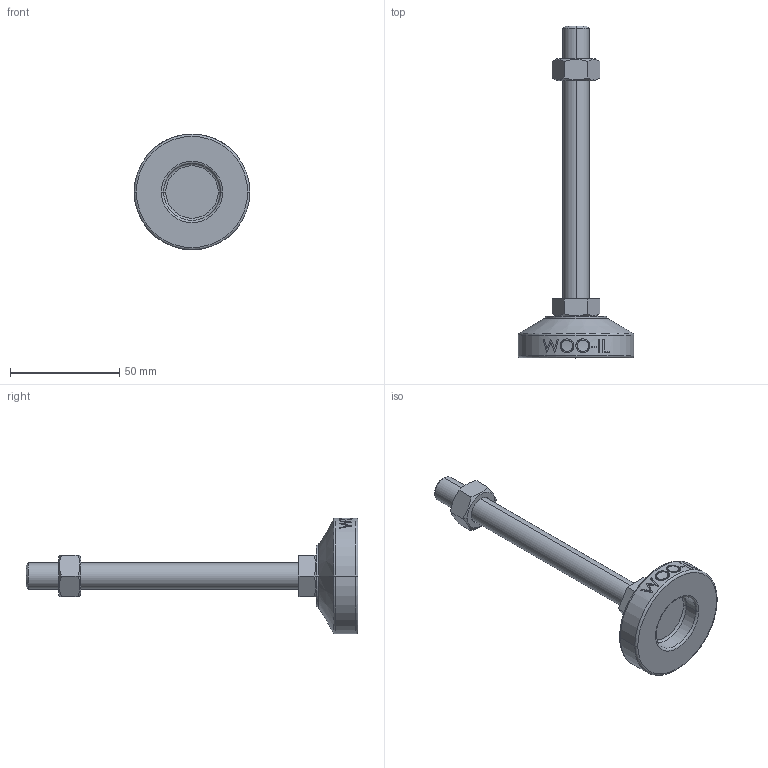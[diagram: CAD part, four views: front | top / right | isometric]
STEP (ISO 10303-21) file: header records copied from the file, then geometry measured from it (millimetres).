
FILE_DESCRIPTION (( 'STEP AP214' ), '1' );
FILE_NAME ('MFZ53-M12-125.step', '2021-01-15T07:03:40', ( '' ), ( '' ), 'SwSTEP 2.0', 'SolidWorks 2019', '' );
FILE_SCHEMA (( 'AUTOMOTIVE_DESIGN' ));
Length unit declared in the file: millimetre
Products named in the file (2): MFZ53-M12-125
Bounding box: 53 x 152 x 53 mm (x, y, z)
Volume: 48631.1 mm3; surface area: 14261.7 mm2
Topology: 3 solids, 3 shells, 106 faces, 243 edges, 154 vertices
Faces by surface type: plane 48, cylinder 18, bspline 16, cone 14, torus 10
Entity records: 4508 total; most frequent: CARTESIAN_POINT 2165, ORIENTED_EDGE 486, DIRECTION 439, EDGE_CURVE 243, AXIS2_PLACEMENT_3D 170, VERTEX_POINT 154, EDGE_LOOP 119, ADVANCED_FACE 106
